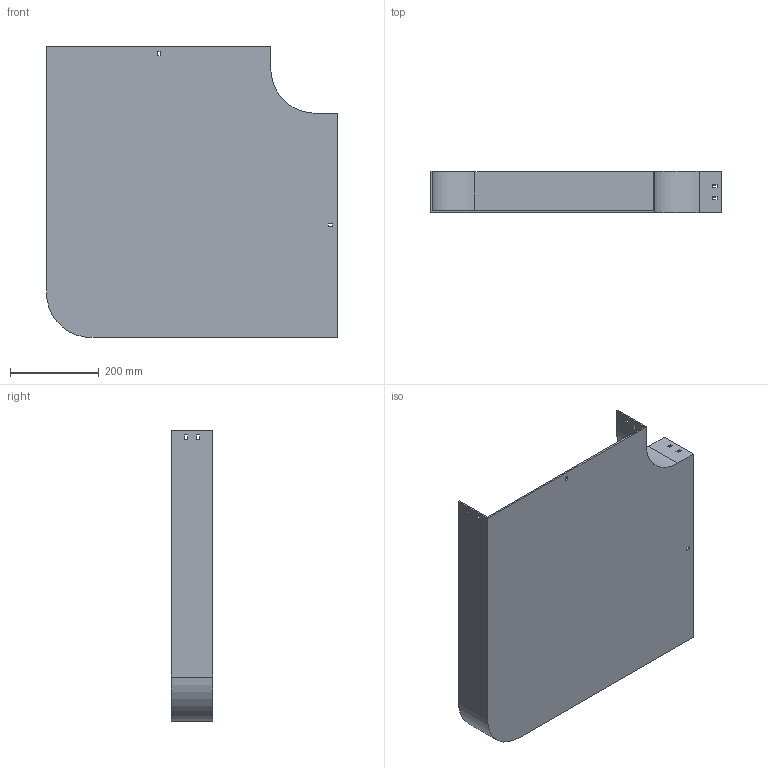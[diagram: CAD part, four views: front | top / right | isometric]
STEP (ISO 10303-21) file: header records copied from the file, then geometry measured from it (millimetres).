
FILE_DESCRIPTION (( 'STEP AP214' ), '1' );
FILE_NAME ('10B1I500.step', '2025-02-21T09:42:17', ( '' ), ( '' ), 'SwSTEP 2.0', 'SolidWorks 2023', '' );
FILE_SCHEMA (( 'AUTOMOTIVE_DESIGN' ));
Length unit declared in the file: millimetre
Products named in the file (1): 10B1I500
Bounding box: 654 x 92.5 x 654 mm (x, y, z)
Volume: 1890039.1 mm3; surface area: 1091292.9 mm2
Topology: 1 solids, 1 shells, 58 faces, 168 edges, 112 vertices
Faces by surface type: plane 54, cylinder 4
Entity records: 1943 total; most frequent: CARTESIAN_POINT 339, ORIENTED_EDGE 336, DIRECTION 294, EDGE_CURVE 168, LINE 160, VECTOR 160, VERTEX_POINT 112, EDGE_LOOP 78
